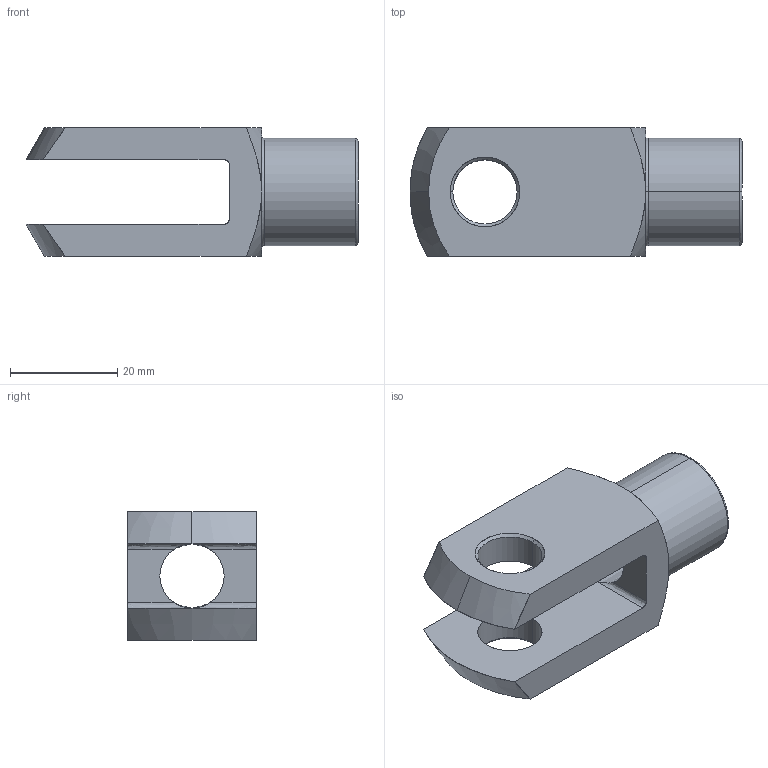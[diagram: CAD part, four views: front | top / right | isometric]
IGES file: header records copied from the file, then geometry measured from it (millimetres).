
Start section: SolidWorks IGES file using analytic representation for surfaces
Global section: file name: C:\Documents and Settings\IANO\My Documents\Wix and Auto CAD Work\CAD Models\Parametric Models\Wix Models\60000\65635_v2\65635_v2_IGES\65635.W0123.igs; native system: SolidWorks 2009; preprocessor: SolidWorks 2009; author: IANO; date: 140117.130607; units: millimetre
Bounding box: 62 x 24 x 24 mm (x, y, z)
Surface area: 7601.9 mm2 (no closed solid volume)
Topology: 0 solids, 0 shells, 39 faces, 612 edges, 612 vertices
Faces by surface type: revolution 25, bspline 14
